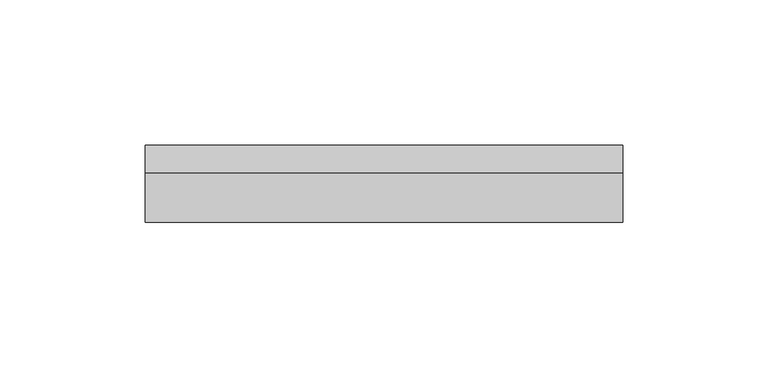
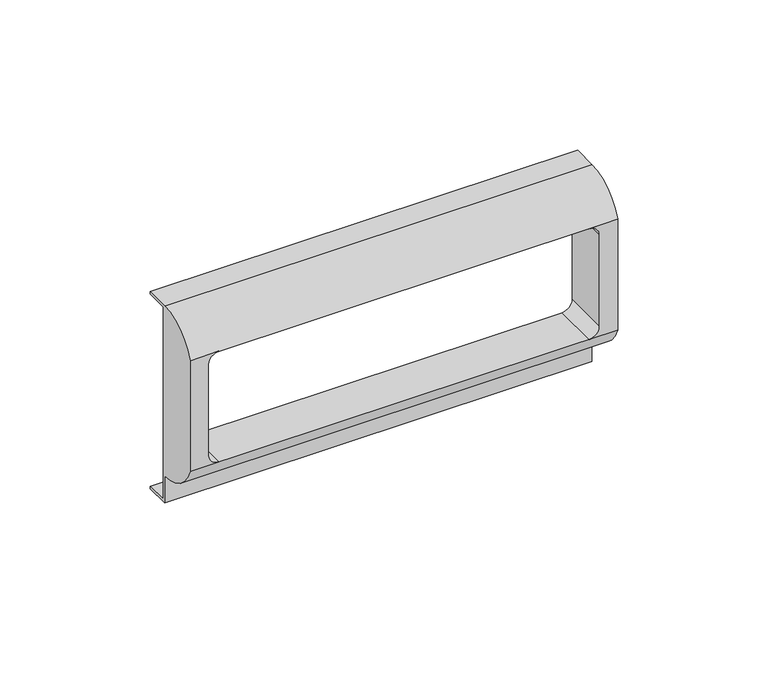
"""IFC4 building model written with IfcOpenShell, lengths in millimetres: proxy geometry, КНС_РамкаСуппорт_ILC_DKC : 45х45."""

from ifc_helpers import new_model, si_unit, frame, origin, place, context, project, spatial, polyline, circle_curve, source, transform, mapped, element, save
from ifc_brep_helpers import plane_surface, cylinder_surface, revolved_surface, advanced_brep


def electrical_fixtures_c11c9339(model_context):
    return source(origin(), model_context, "Body", "AdvancedBrep", [
        advanced_brep(
        [(82.0, 8.4, 39.0), (82.0, 8.4, 40.0), (82.0, -1.0, 40.0), (82.0, -18.0, 28.0), (82.0, -18.0, -17.0), (82.0, -1.0, -29.0), (82.0, -1.0, -40.0), (82.0, 8.4, -40.0), (82.0, 8.4, -39.0), (82.0, 0.0, -39.0), (82.0, 0.0, 39.0), (-82.0, 8.4, 39.0), (-82.0, 0.0, 39.0), (-82.0, 0.0, -39.0), (-82.0, 8.4, -39.0), (-82.0, 8.4, -40.0), (-82.0, -1.0, -40.0), (-82.0, -1.0, -29.0), (-82.0, -18.0, -17.0), (-82.0, -18.0, 28.0), (-82.0, -1.0, 40.0), (-82.0, 8.4, 40.0), (70.9686648, -18.0, 28.0), (75.0, -18.0, 23.9686648), (75.0, -18.0, -12.9686648), (70.9686648, -18.0, -17.0), (-70.9686648, -18.0, -17.0), (-75.0, -18.0, -12.9686648), (-75.0, -18.0, 23.9686648), (-70.9686648, -18.0, 28.0), (70.9686648, 0.0, 28.0), (-70.9686648, 0.0, 28.0), (-75.0, 0.0, 23.9686648), (-75.0, 0.0, -12.9686648), (-70.9686648, 0.0, -17.0), (70.9686648, 0.0, -17.0), (75.0, 0.0, -12.9686648), (75.0, 0.0, 23.9686648)],
        [
            (0, 1),
            (1, 2),
            (2, 3, circle_curve(frame((82.0, -1.0, 21.9583333), z_axis=(1.0, 0.0, 0.0), x_axis=(0.0, 1.0, 0.0)), 18.0416667)),
            (3, 4),
            (4, 5, circle_curve(frame((82.0, -1.0, -10.9583333), z_axis=(1.0, 0.0, 0.0), x_axis=(0.0, 1.0, 0.0)), 18.0416667)),
            (5, 6),
            (6, 7),
            (7, 8),
            (8, 9),
            (9, 10),
            (10, 0),
            (11, 12),
            (12, 13),
            (13, 14),
            (14, 15),
            (15, 16),
            (16, 17),
            (17, 18, circle_curve(frame((-82.0, -1.0, -10.9583333), z_axis=(-1.0, 0.0, 0.0), x_axis=(0.0, 1.0, 0.0)), 18.0416667)),
            (18, 19),
            (19, 20, circle_curve(frame((-82.0, -1.0, 21.9583333), z_axis=(-1.0, 0.0, 0.0), x_axis=(0.0, 1.0, 0.0)), 18.0416667)),
            (20, 21),
            (21, 11),
            (0, 11),
            (21, 1),
            (20, 2),
            (3, 22),
            (22, 23, circle_curve(frame((70.9686648, -18.0, 23.9686648), z_axis=(0.0, 1.0, 0.0), x_axis=(1.0, 0.0, 0.0)), 4.0313352)),
            (23, 24),
            (24, 25, circle_curve(frame((70.9686648, -18.0, -12.9686648), z_axis=(0.0, 1.0, 0.0), x_axis=(1.0, 0.0, 0.0)), 4.0313352)),
            (25, 4),
            (18, 26),
            (26, 27, circle_curve(frame((-70.9686648, -18.0, -12.9686648), z_axis=(0.0, 1.0, 0.0), x_axis=(1.0, 0.0, 0.0)), 4.0313352)),
            (27, 28),
            (28, 29, circle_curve(frame((-70.9686648, -18.0, 23.9686648), z_axis=(0.0, 1.0, 0.0), x_axis=(1.0, 0.0, 0.0)), 4.0313352)),
            (29, 19),
            (5, 17),
            (16, 6),
            (15, 7),
            (14, 8),
            (13, 9),
            (12, 10),
            (30, 31),
            (31, 32, circle_curve(frame((-70.9686648, 0.0, 23.9686648), z_axis=(0.0, -1.0, 0.0), x_axis=(1.0, 0.0, 0.0)), 4.0313352)),
            (32, 33),
            (33, 34, circle_curve(frame((-70.9686648, 0.0, -12.9686648), z_axis=(0.0, -1.0, 0.0), x_axis=(1.0, 0.0, 0.0)), 4.0313352)),
            (34, 35),
            (35, 36, circle_curve(frame((70.9686648, 0.0, -12.9686648), z_axis=(0.0, -1.0, 0.0), x_axis=(1.0, 0.0, 0.0)), 4.0313352)),
            (36, 37),
            (37, 30, circle_curve(frame((70.9686648, 0.0, 23.9686648), z_axis=(0.0, -1.0, 0.0), x_axis=(1.0, 0.0, 0.0)), 4.0313352)),
            (29, 22),
            (25, 26),
            (29, 31),
            (30, 22),
            (28, 32),
            (27, 33),
            (26, 34),
            (25, 35),
            (24, 36),
            (23, 37),
        ],
        [
            plane_surface(frame((82.0, 8.4, 40.0), z_axis=(1.0, 0.0, 0.0), x_axis=(0.0, 0.0, 1.0))),
            plane_surface(frame((-82.0, 8.4, 40.0), z_axis=(-1.0, 0.0, 0.0), x_axis=(0.0, 0.0, -1.0))),
            plane_surface(frame((82.0, 8.4, 39.0), z_axis=(0.0, 1.0, 0.0), x_axis=(-1.0, 0.0, 0.0))),
            plane_surface(frame((82.0, 8.4, 40.0), z_axis=(0.0, 0.0, 1.0), x_axis=(-1.0, 0.0, 0.0))),
            plane_surface(frame((82.0, -18.0, 28.0), z_axis=(0.0, -1.0, 0.0), x_axis=(-1.0, 0.0, 0.0))),
            plane_surface(frame((82.0, -1.0, -29.0), z_axis=(0.0, -1.0, 0.0), x_axis=(-1.0, 0.0, 0.0))),
            plane_surface(frame((82.0, -1.0, -40.0), z_axis=(0.0, 0.0, -1.0), x_axis=(-1.0, 0.0, 0.0))),
            plane_surface(frame((82.0, 8.4, -40.0), z_axis=(0.0, 1.0, 0.0), x_axis=(-1.0, 0.0, 0.0))),
            plane_surface(frame((82.0, 8.4, -39.0), z_axis=(0.0, 0.0, 1.0), x_axis=(-1.0, 0.0, 0.0))),
            plane_surface(frame((82.0, 0.0, -39.0), z_axis=(0.0, 1.0, 0.0), x_axis=(-1.0, 0.0, 0.0))),
            plane_surface(frame((82.0, 0.0, 39.0), z_axis=(0.0, 0.0, -1.0), x_axis=(-1.0, 0.0, 0.0))),
            cylinder_surface(frame((-82.0, -1.0, 21.9583333), z_axis=(1.0, 0.0, 0.0), x_axis=(0.0, 1.0, 0.0)), 18.0416667),
            cylinder_surface(frame((-82.0, -1.0, -10.9583333), z_axis=(1.0, 0.0, 0.0), x_axis=(0.0, 1.0, 0.0)), 18.0416667),
            plane_surface(frame((70.9686648, -18.0, 28.0), z_axis=(0.0, 0.0, -1.0), x_axis=(0.0, 1.0, 0.0))),
            revolved_surface(polyline([(-66.9373296, -18.0, 23.9686648), (-66.9373296, 0.0, 23.9686648)]), (-70.9686648, 0.0, 23.9686648), (0.0, -1.0, 0.0)),
            plane_surface(frame((-75.0, -18.0, 23.9686648), z_axis=(1.0, 0.0, 0.0), x_axis=(0.0, 1.0, 0.0))),
            revolved_surface(polyline([(-66.9373296, -18.0, -12.9686648), (-66.9373296, 0.0, -12.9686648)]), (-70.9686648, 0.0, -12.9686648), (0.0, -1.0, 0.0)),
            plane_surface(frame((-70.9686648, -18.0, -17.0), z_axis=(0.0, 0.0, 1.0), x_axis=(0.0, 1.0, 0.0))),
            revolved_surface(polyline([(75.0, -18.0, -12.9686648), (75.0, 0.0, -12.9686648)]), (70.9686648, 0.0, -12.9686648), (0.0, -1.0, 0.0)),
            plane_surface(frame((75.0, -18.0, -12.9686648), z_axis=(-1.0, 0.0, 0.0), x_axis=(0.0, 1.0, 0.0))),
            revolved_surface(polyline([(75.0, -18.0, 23.9686648), (75.0, 0.0, 23.9686648)]), (70.9686648, 0.0, 23.9686648), (0.0, -1.0, 0.0)),
        ],
        [
            (0, [[1, 2, 3, 4, 5, 6, 7, 8, 9, 10, 11]]),
            (1, [[12, 13, 14, 15, 16, 17, 18, 19, 20, 21, 22]]),
            (2, [[-1, 23, -22, 24]]),
            (3, [[-2, -24, -21, 25]]),
            (4, [[-4, 26, 27, 28, 29, 30]]),
            (4, [[-19, 31, 32, 33, 34, 35]]),
            (5, [[-6, 36, -17, 37]]),
            (6, [[-7, -37, -16, 38]]),
            (7, [[-8, -38, -15, 39]]),
            (8, [[-9, -39, -14, 40]]),
            (9, [[-10, -40, -13, 41], [42, 43, 44, 45, 46, 47, 48, 49]]),
            (10, [[-11, -41, -12, -23]]),
            (11, [[-3, -25, -20, -35, 50, -26]]),
            (12, [[-5, -30, 51, -31, -18, -36]]),
            (13, [[52, -42, 53, -50]]),
            (14, [[-52, -34, 54, -43]]),
            (15, [[-54, -33, 55, -44]]),
            (16, [[-55, -32, 56, -45]]),
            (17, [[-56, -51, 57, -46]]),
            (18, [[-57, -29, 58, -47]]),
            (19, [[-58, -28, 59, -48]]),
            (20, [[-53, -49, -59, -27]]),
        ],
    ),
    ])


if __name__ == "__main__":
    model = new_model("IFC4")
    model_context = context("Model", 3, world=origin())
    ifc_project = project(units=[si_unit("LENGTHUNIT", "METRE", prefix="MILLI")], contexts=[model_context])
    site = spatial("IfcSite", under=ifc_project)
    building = spatial("IfcBuilding", under=site)
    placement = place(None, origin())
    electrical_fixtures_shape = electrical_fixtures_c11c9339(model_context)
    element("IfcBuildingElementProxy", 1, Name="КНС_РамкаСуппорт_ILC_DKC : 45х45", ObjectType="КНС_РамкаСуппорт_ILC_DKC : 45х45", at=placement, inside=building, context=model_context, shape_type="MappedRepresentation", body=[
        mapped(electrical_fixtures_shape, transform((0.0, 0.0, 0.0), x_axis=(1.0, 0.0, 0.0), y_axis=(0.0, 1.0, 0.0), z_axis=(0.0, 0.0, 1.0))),
    ])
    save(model, "model.ifc")
